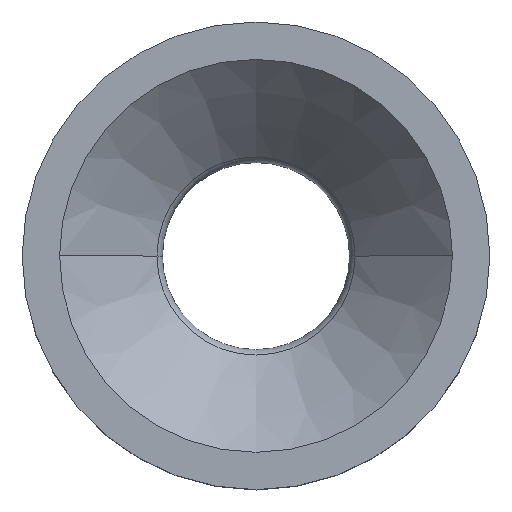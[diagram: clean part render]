
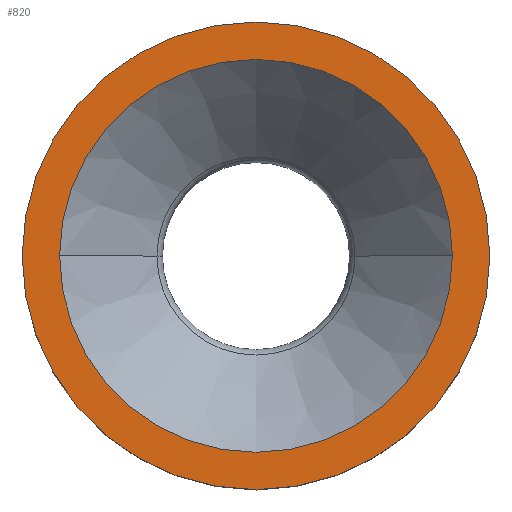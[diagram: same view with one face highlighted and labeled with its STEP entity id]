
A CAD part, top view. The second image highlights one B-rep face of the part: STEP entity #820.
In plain terms, the highlighted planar face has unit normal (0, 0, 1).
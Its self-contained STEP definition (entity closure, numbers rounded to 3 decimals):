
#125=CARTESIAN_POINT('',(0.,0.,19.));
#126=DIRECTION('',(0.,0.,1.));
#127=DIRECTION('',(1.,0.,0.));
#128=AXIS2_PLACEMENT_3D('',#125,#126,#127);
#130=CARTESIAN_POINT('',(0.,0.,19.));
#131=DIRECTION('',(0.,0.,1.));
#132=DIRECTION('',(-1.,0.,0.));
#133=AXIS2_PLACEMENT_3D('',#130,#131,#132);
#135=CARTESIAN_POINT('',(0.,0.,19.));
#136=DIRECTION('',(0.,0.,-1.));
#137=DIRECTION('',(1.,0.,0.));
#138=AXIS2_PLACEMENT_3D('',#135,#136,#137);
#140=CARTESIAN_POINT('',(0.,0.,19.));
#141=DIRECTION('',(0.,0.,-1.));
#142=DIRECTION('',(-1.,0.,0.));
#143=AXIS2_PLACEMENT_3D('',#140,#141,#142);
#515=CARTESIAN_POINT('',(25.,0.,19.));
#516=CARTESIAN_POINT('',(-25.,0.,19.));
#517=VERTEX_POINT('',#515);
#518=VERTEX_POINT('',#516);
#519=CARTESIAN_POINT('',(21.,0.,19.));
#520=CARTESIAN_POINT('',(-21.,0.,19.));
#521=VERTEX_POINT('',#519);
#522=VERTEX_POINT('',#520);
#805=CARTESIAN_POINT('',(0.,0.,19.));
#806=DIRECTION('',(0.,0.,1.));
#807=DIRECTION('',(1.,0.,0.));
#808=AXIS2_PLACEMENT_3D('',#805,#806,#807);
#809=PLANE('',#808);
#811=ORIENTED_EDGE('',*,*,#810,.F.);
#813=ORIENTED_EDGE('',*,*,#812,.F.);
#814=EDGE_LOOP('',(#811,#813));
#815=FACE_OUTER_BOUND('',#814,.F.);
#816=ORIENTED_EDGE('',*,*,#785,.F.);
#817=ORIENTED_EDGE('',*,*,#799,.F.);
#818=EDGE_LOOP('',(#816,#817));
#819=FACE_BOUND('',#818,.F.);
#129=CIRCLE('',#128,25.);
#134=CIRCLE('',#133,25.);
#139=CIRCLE('',#138,21.);
#144=CIRCLE('',#143,21.);
#785=EDGE_CURVE('',#521,#522,#139,.T.);
#799=EDGE_CURVE('',#522,#521,#144,.T.);
#810=EDGE_CURVE('',#517,#518,#129,.T.);
#812=EDGE_CURVE('',#518,#517,#134,.T.);
#820=ADVANCED_FACE('',(#815,#819),#809,.T.);
